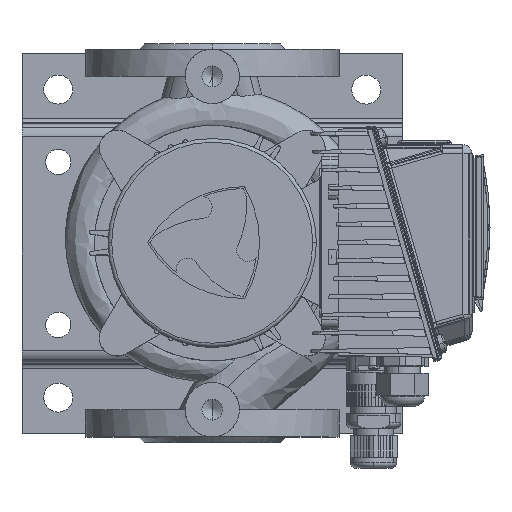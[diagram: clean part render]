
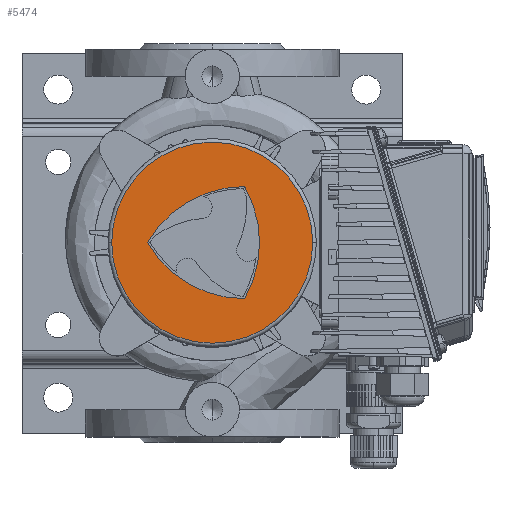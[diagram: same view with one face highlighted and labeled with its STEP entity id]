
A CAD part, top view. The second image highlights one B-rep face of the part: STEP entity #5474.
In plain terms, the highlighted planar face has unit normal (0, 0, 1).
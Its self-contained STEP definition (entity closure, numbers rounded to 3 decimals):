
#5474=ADVANCED_FACE('',(#13761,#13762),#13763,.T.);
#5496=EDGE_CURVE('',#13800,#13801,#13802,.T.);
#5498=EDGE_CURVE('',#13804,#13800,#13805,.T.);
#5500=EDGE_CURVE('',#13807,#13808,#13809,.T.);
#5656=EDGE_CURVE('',#13808,#14016,#14019,.T.);
#5660=EDGE_CURVE('',#14024,#13807,#14025,.T.);
#5666=EDGE_CURVE('',#14016,#14024,#14031,.T.);
#5668=EDGE_CURVE('',#13801,#13804,#14033,.T.);
#13761=FACE_OUTER_BOUND('',#25800,.T.);
#13762=FACE_BOUND('',#25801,.T.);
#13763=PLANE('',#25802);
#13800=VERTEX_POINT('',#25846);
#13801=VERTEX_POINT('',#25847);
#13802=CIRCLE('',#25848,55.5);
#13804=VERTEX_POINT('',#25851);
#13805=CIRCLE('',#25852,55.5);
#13807=VERTEX_POINT('',#25855);
#13808=VERTEX_POINT('',#25856);
#13809=CIRCLE('',#25857,61.9);
#14016=VERTEX_POINT('',#26177);
#14019=CIRCLE('',#26182,61.9);
#14024=VERTEX_POINT('',#26189);
#14025=CIRCLE('',#26190,61.9);
#14031=CIRCLE('',#26200,61.9);
#14033=CIRCLE('',#26203,55.5);
#25800=EDGE_LOOP('',(#45688,#45689,#45690));
#25801=EDGE_LOOP('',(#45691,#45692,#45693,#45694));
#25802=AXIS2_PLACEMENT_3D('',#45695,#45696,#45697);
#25846=CARTESIAN_POINT('',(-61.236,29.38,190.08));
#25847=CARTESIAN_POINT('',(-164.8,1.63,190.08));
#25848=AXIS2_PLACEMENT_3D('',#45747,#45748,#45749);
#25851=CARTESIAN_POINT('',(-53.8,1.63,190.08));
#25852=AXIS2_PLACEMENT_3D('',#45750,#45751,#45752);
#25855=CARTESIAN_POINT('',(-91.483,32.613,190.08));
#25856=CARTESIAN_POINT('',(-90.94,31.653,190.08));
#25857=AXIS2_PLACEMENT_3D('',#45753,#45754,#45755);
#26177=CARTESIAN_POINT('',(-91.45,-29.287,190.08));
#26182=AXIS2_PLACEMENT_3D('',#45913,#45914,#45915);
#26189=CARTESIAN_POINT('',(-145.074,1.634,190.08));
#26190=AXIS2_PLACEMENT_3D('',#45919,#45920,#45921);
#26200=AXIS2_PLACEMENT_3D('',#45926,#45927,#45928);
#26203=AXIS2_PLACEMENT_3D('',#45929,#45930,#45931);
#45688=ORIENTED_EDGE('',*,*,#5496,.T.);
#45689=ORIENTED_EDGE('',*,*,#5668,.T.);
#45690=ORIENTED_EDGE('',*,*,#5498,.T.);
#45691=ORIENTED_EDGE('',*,*,#5500,.T.);
#45692=ORIENTED_EDGE('',*,*,#5656,.T.);
#45693=ORIENTED_EDGE('',*,*,#5666,.T.);
#45694=ORIENTED_EDGE('',*,*,#5660,.T.);
#45695=CARTESIAN_POINT('',(-85.268,15.505,190.08));
#45696=DIRECTION('',(0.0,0.0,1.0));
#45697=DIRECTION('',(1.0,0.0,0.0));
#45747=CARTESIAN_POINT('',(-109.3,1.63,190.08));
#45748=DIRECTION('',(0.0,-0.0,1.0));
#45749=DIRECTION('',(0.866,0.5,0.0));
#45750=CARTESIAN_POINT('',(-109.3,1.63,190.08));
#45751=DIRECTION('',(0.0,-0.0,1.0));
#45752=DIRECTION('',(0.866,0.5,0.0));
#45753=CARTESIAN_POINT('',(-145.074,1.634,190.08));
#45754=DIRECTION('',(0.0,0.0,-1.0));
#45755=DIRECTION('',(0.875,0.485,0.0));
#45913=CARTESIAN_POINT('',(-145.074,1.634,190.08));
#45914=DIRECTION('',(0.0,0.0,-1.0));
#45915=DIRECTION('',(0.875,0.485,0.0));
#45919=CARTESIAN_POINT('',(-91.45,-29.287,190.08));
#45920=DIRECTION('',(0.0,0.0,-1.0));
#45921=DIRECTION('',(0.866,0.5,0.0));
#45926=CARTESIAN_POINT('',(-91.483,32.613,190.08));
#45927=DIRECTION('',(0.0,0.0,-1.0));
#45928=DIRECTION('',(0.883,0.47,0.0));
#45929=CARTESIAN_POINT('',(-109.3,1.63,190.08));
#45930=DIRECTION('',(0.0,-0.0,1.0));
#45931=DIRECTION('',(0.866,0.5,0.0));
